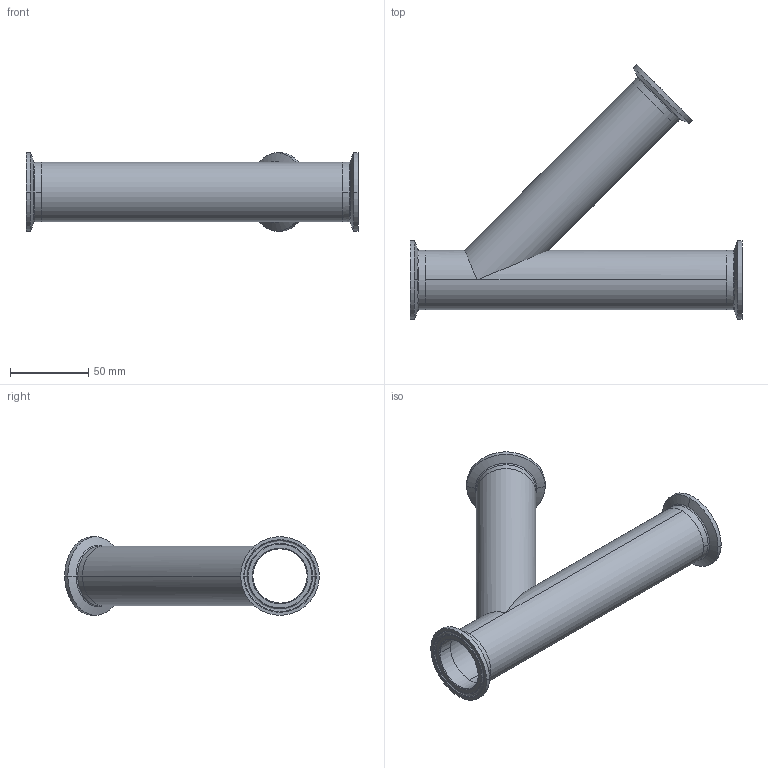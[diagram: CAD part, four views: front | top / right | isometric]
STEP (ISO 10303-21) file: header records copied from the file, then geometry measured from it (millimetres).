
FILE_DESCRIPTION (( 'STEP AP214' ), '1' );
FILE_NAME ('TEG28A6L1.5-...STEP', '2016-05-25T04:35:51', ( 'eran' ), ( '' ), 'SwSTEP 2.0', 'SolidWorks 2016', '' );
FILE_SCHEMA (( 'AUTOMOTIVE_DESIGN' ));
Length unit declared in the file: millimetre
Products named in the file (1): TEG28A6L1.5-..
Bounding box: 212.7 x 163.15 x 50.39 mm (x, y, z)
Volume: 75594.4 mm3; surface area: 86726.7 mm2
Topology: 4 solids, 4 shells, 88 faces, 210 edges, 132 vertices
Faces by surface type: bspline 30, cylinder 28, cone 18, plane 12
Entity records: 4542 total; most frequent: CARTESIAN_POINT 2477, DIRECTION 438, ORIENTED_EDGE 420, EDGE_CURVE 210, AXIS2_PLACEMENT_3D 195, CIRCLE 136, VERTEX_POINT 132, EDGE_LOOP 100
